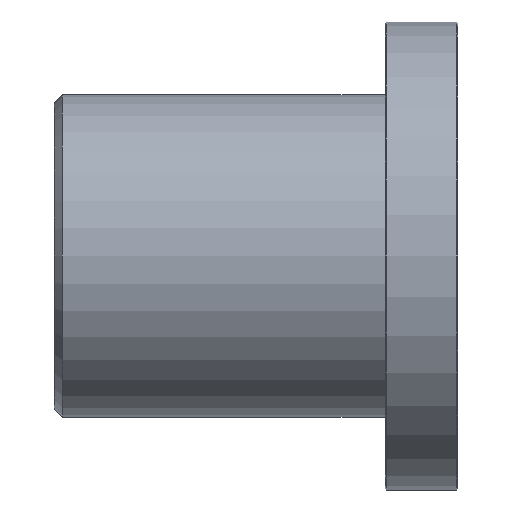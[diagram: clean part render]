
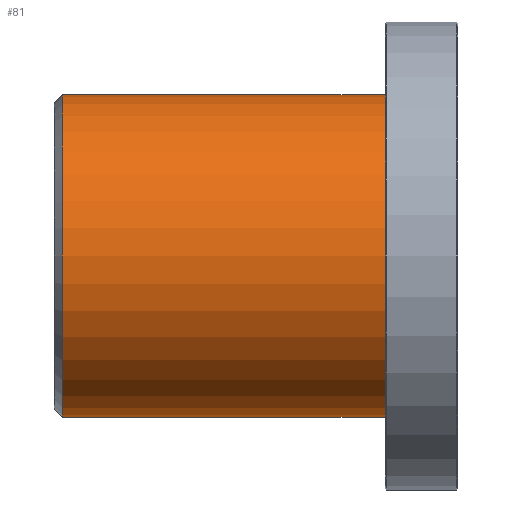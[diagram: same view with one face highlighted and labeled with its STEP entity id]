
A CAD part, front view. The second image highlights one B-rep face of the part: STEP entity #81.
In plain terms, the highlighted cylindrical face has radius 40 mm (diameter 80 mm), a full revolution.
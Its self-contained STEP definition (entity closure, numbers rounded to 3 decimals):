
#81=ADVANCED_FACE('',(#119,#120),#121,.T.);
#119=FACE_OUTER_BOUND('',#190,.T.);
#120=FACE_OUTER_BOUND('',#191,.T.);
#121=CYLINDRICAL_SURFACE('',#192,40.0);
#190=EDGE_LOOP('',(#273));
#191=EDGE_LOOP('',(#274));
#192=AXIS2_PLACEMENT_3D('',#275,#276,#277);
#273=ORIENTED_EDGE('',*,*,#364,.F.);
#274=ORIENTED_EDGE('',*,*,#365,.T.);
#275=CARTESIAN_POINT('',(-100.0,0.,0.0));
#276=DIRECTION('',(1.0,-0.0,-0.0));
#277=DIRECTION('',(0.0,0.0,1.0));
#364=EDGE_CURVE('',#401,#401,#402,.T.);
#365=EDGE_CURVE('',#403,#403,#404,.T.);
#401=VERTEX_POINT('',#451);
#402=CIRCLE('',#452,40.0);
#403=VERTEX_POINT('',#453);
#404=CIRCLE('',#454,40.0);
#451=CARTESIAN_POINT('',(-98.0,0.,40.0));
#452=AXIS2_PLACEMENT_3D('',#513,#514,#515);
#453=CARTESIAN_POINT('',(-18.0,0.,40.0));
#454=AXIS2_PLACEMENT_3D('',#516,#517,#518);
#513=CARTESIAN_POINT('',(-98.0,0.,0.0));
#514=DIRECTION('',(-1.0,0.0,0.0));
#515=DIRECTION('',(0.0,0.0,1.0));
#516=CARTESIAN_POINT('',(-18.0,0.,0.0));
#517=DIRECTION('',(-1.0,0.0,0.0));
#518=DIRECTION('',(0.0,0.0,1.0));
